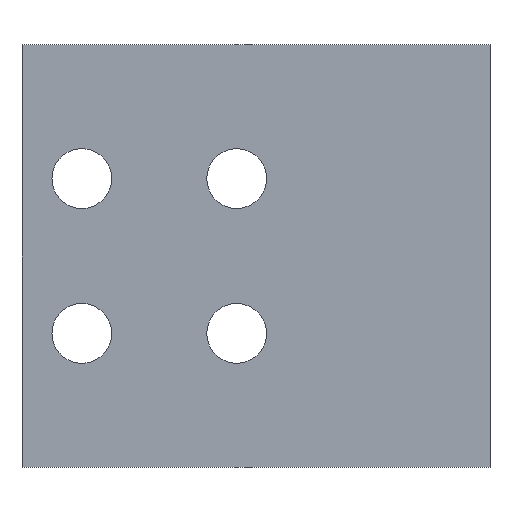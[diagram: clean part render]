
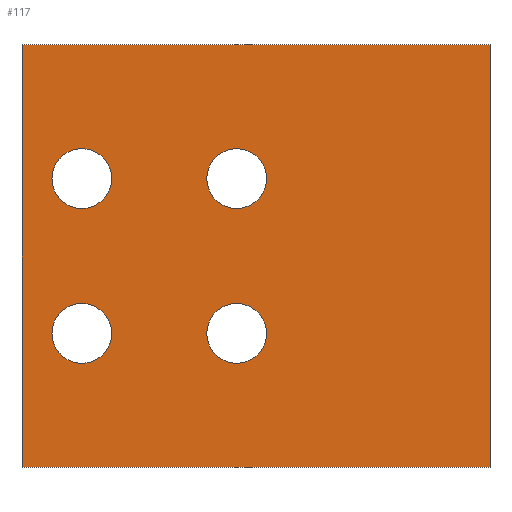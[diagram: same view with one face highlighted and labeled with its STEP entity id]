
A CAD part, front view. The second image highlights one B-rep face of the part: STEP entity #117.
In plain terms, the highlighted planar face has unit normal (0, -1, 0).
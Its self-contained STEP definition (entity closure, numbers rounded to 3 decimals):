
#101 = EDGE_CURVE( '', #151, #107, #267, .T. );
#105 = EDGE_CURVE( '', #217, #225, #271, .T. );
#107 = VERTEX_POINT( '', #273 );
#111 = EDGE_CURVE( '', #121, #197, #277, .T. );
#115 = VERTEX_POINT( '', #281 );
#117 = ADVANCED_FACE( '', ( #283, #284, #285, #286, #287 ), #288, .T. );
#121 = VERTEX_POINT( '', #292 );
#123 = EDGE_CURVE( '', #231, #213, #294, .T. );
#135 = EDGE_CURVE( '', #115, #215, #308, .T. );
#137 = EDGE_CURVE( '', #173, #149, #310, .T. );
#149 = VERTEX_POINT( '', #323 );
#151 = VERTEX_POINT( '', #325 );
#159 = EDGE_CURVE( '', #213, #231, #333, .T. );
#173 = VERTEX_POINT( '', #350 );
#177 = EDGE_CURVE( '', #149, #173, #354, .T. );
#191 = EDGE_CURVE( '', #225, #217, #375, .T. );
#197 = VERTEX_POINT( '', #381 );
#199 = EDGE_CURVE( '', #107, #197, #383, .T. );
#207 = EDGE_CURVE( '', #151, #121, #391, .T. );
#213 = VERTEX_POINT( '', #398 );
#215 = VERTEX_POINT( '', #400 );
#217 = VERTEX_POINT( '', #402 );
#225 = VERTEX_POINT( '', #413 );
#231 = VERTEX_POINT( '', #419 );
#243 = EDGE_CURVE( '', #215, #115, #431, .T. );
#267 = LINE( '', #448, #449 );
#271 = CIRCLE( '', #456, 4.25 );
#273 = CARTESIAN_POINT( '', ( -33.25, 0., 30. ) );
#277 = LINE( '', #463, #464 );
#281 = CARTESIAN_POINT( '', ( 1.5, 0., -11. ) );
#283 = FACE_BOUND( '', #470, .T. );
#284 = FACE_BOUND( '', #471, .T. );
#285 = FACE_BOUND( '', #472, .T. );
#286 = FACE_BOUND( '', #473, .T. );
#287 = FACE_OUTER_BOUND( '', #474, .T. );
#288 = PLANE( '', #475 );
#292 = CARTESIAN_POINT( '', ( 33.25, 0., -30. ) );
#294 = CIRCLE( '', #484, 4.25 );
#308 = CIRCLE( '', #501, 4.25 );
#310 = CIRCLE( '', #504, 4.25 );
#323 = CARTESIAN_POINT( '', ( 1.5, 0., 11. ) );
#325 = CARTESIAN_POINT( '', ( 33.25, 0., 30. ) );
#333 = CIRCLE( '', #537, 4.25 );
#350 = CARTESIAN_POINT( '', ( -7., 0., 11. ) );
#354 = CIRCLE( '', #562, 4.25 );
#375 = CIRCLE( '', #589, 4.25 );
#381 = CARTESIAN_POINT( '', ( -33.25, 0., -30. ) );
#383 = LINE( '', #600, #601 );
#391 = LINE( '', #614, #615 );
#398 = CARTESIAN_POINT( '', ( -20.5, 0., 11. ) );
#400 = CARTESIAN_POINT( '', ( -7., 0., -11. ) );
#402 = CARTESIAN_POINT( '', ( -20.5, 0., -11. ) );
#413 = CARTESIAN_POINT( '', ( -29., 0., -11. ) );
#419 = CARTESIAN_POINT( '', ( -29., 0., 11. ) );
#431 = CIRCLE( '', #663, 4.25 );
#448 = CARTESIAN_POINT( '', ( 33.25, 0., 30. ) );
#449 = VECTOR( '', #671, 1. );
#456 = AXIS2_PLACEMENT_3D( '', #673, #674, #675 );
#463 = CARTESIAN_POINT( '', ( 33.25, 0., -30. ) );
#464 = VECTOR( '', #676, 1. );
#470 = EDGE_LOOP( '', ( #678, #679 ) );
#471 = EDGE_LOOP( '', ( #680, #681 ) );
#472 = EDGE_LOOP( '', ( #682, #683 ) );
#473 = EDGE_LOOP( '', ( #684, #685 ) );
#474 = EDGE_LOOP( '', ( #686, #687, #688, #689 ) );
#475 = AXIS2_PLACEMENT_3D( '', #690, #691, #692 );
#484 = AXIS2_PLACEMENT_3D( '', #694, #695, #696 );
#501 = AXIS2_PLACEMENT_3D( '', #714, #715, #716 );
#504 = AXIS2_PLACEMENT_3D( '', #717, #718, #719 );
#537 = AXIS2_PLACEMENT_3D( '', #735, #736, #737 );
#562 = AXIS2_PLACEMENT_3D( '', #770, #771, #772 );
#589 = AXIS2_PLACEMENT_3D( '', #810, #811, #812 );
#600 = CARTESIAN_POINT( '', ( -33.25, 0., 30. ) );
#601 = VECTOR( '', #814, 1. );
#614 = CARTESIAN_POINT( '', ( 33.25, 0., 30. ) );
#615 = VECTOR( '', #822, 1. );
#663 = AXIS2_PLACEMENT_3D( '', #861, #862, #863 );
#671 = DIRECTION( '', ( -1., 0., 0. ) );
#673 = CARTESIAN_POINT( '', ( -24.75, 0., -11. ) );
#674 = DIRECTION( '', ( 0., 1., 0. ) );
#675 = DIRECTION( '', ( -1., 0., 0. ) );
#676 = DIRECTION( '', ( -1., 0., 0. ) );
#678 = ORIENTED_EDGE( '', *, *, #177, .T. );
#679 = ORIENTED_EDGE( '', *, *, #137, .T. );
#680 = ORIENTED_EDGE( '', *, *, #159, .T. );
#681 = ORIENTED_EDGE( '', *, *, #123, .T. );
#682 = ORIENTED_EDGE( '', *, *, #135, .T. );
#683 = ORIENTED_EDGE( '', *, *, #243, .T. );
#684 = ORIENTED_EDGE( '', *, *, #105, .T. );
#685 = ORIENTED_EDGE( '', *, *, #191, .T. );
#686 = ORIENTED_EDGE( '', *, *, #199, .T. );
#687 = ORIENTED_EDGE( '', *, *, #111, .F. );
#688 = ORIENTED_EDGE( '', *, *, #207, .F. );
#689 = ORIENTED_EDGE( '', *, *, #101, .T. );
#690 = CARTESIAN_POINT( '', ( 33.25, 0., 30. ) );
#691 = DIRECTION( '', ( 0., -1., 0. ) );
#692 = DIRECTION( '', ( 0., 0., 1. ) );
#694 = CARTESIAN_POINT( '', ( -24.75, 0., 11. ) );
#695 = DIRECTION( '', ( 0., 1., 0. ) );
#696 = DIRECTION( '', ( -1., 0., 0. ) );
#714 = CARTESIAN_POINT( '', ( -2.75, 0., -11. ) );
#715 = DIRECTION( '', ( 0., 1., 0. ) );
#716 = DIRECTION( '', ( -1., 0., 0. ) );
#717 = CARTESIAN_POINT( '', ( -2.75, 0., 11. ) );
#718 = DIRECTION( '', ( 0., 1., 0. ) );
#719 = DIRECTION( '', ( -1., 0., 0. ) );
#735 = CARTESIAN_POINT( '', ( -24.75, 0., 11. ) );
#736 = DIRECTION( '', ( 0., 1., 0. ) );
#737 = DIRECTION( '', ( -1., 0., 0. ) );
#770 = CARTESIAN_POINT( '', ( -2.75, 0., 11. ) );
#771 = DIRECTION( '', ( 0., 1., 0. ) );
#772 = DIRECTION( '', ( -1., 0., 0. ) );
#810 = CARTESIAN_POINT( '', ( -24.75, 0., -11. ) );
#811 = DIRECTION( '', ( 0., 1., 0. ) );
#812 = DIRECTION( '', ( -1., 0., 0. ) );
#814 = DIRECTION( '', ( 0., 0., -1. ) );
#822 = DIRECTION( '', ( 0., 0., -1. ) );
#861 = CARTESIAN_POINT( '', ( -2.75, 0., -11. ) );
#862 = DIRECTION( '', ( 0., 1., 0. ) );
#863 = DIRECTION( '', ( -1., 0., 0. ) );
